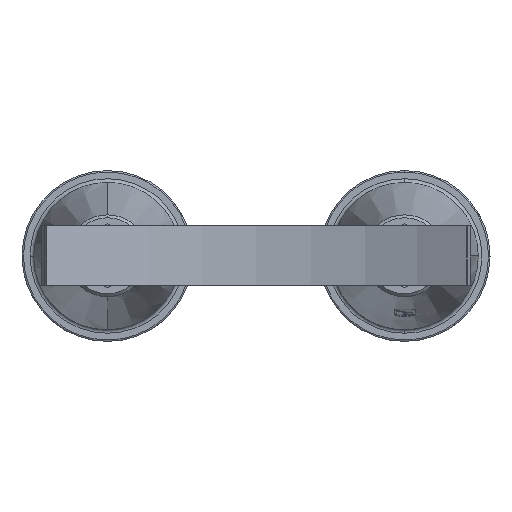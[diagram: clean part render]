
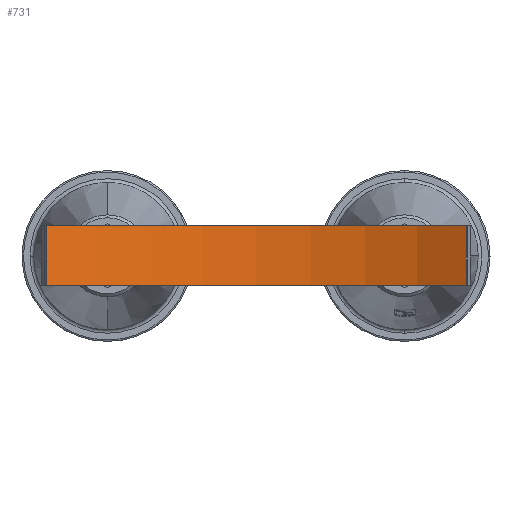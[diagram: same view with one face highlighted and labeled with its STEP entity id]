
A CAD part, top view. The second image highlights one B-rep face of the part: STEP entity #731.
In plain terms, the highlighted cylindrical face has radius 546 mm (diameter 1092 mm), a partial arc.
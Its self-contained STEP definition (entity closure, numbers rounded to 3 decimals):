
#731=ADVANCED_FACE('',(#1435),#1436,.F.);
#1435=FACE_OUTER_BOUND('',#2162,.T.);
#1436=CYLINDRICAL_SURFACE('',#2163,546.);
#2162=EDGE_LOOP('',(#3930,#3931,#3932,#3933));
#2163=AXIS2_PLACEMENT_3D('',#3934,#3935,#3936);
#3930=ORIENTED_EDGE('',*,*,#4773,.T.);
#3931=ORIENTED_EDGE('',*,*,#4763,.F.);
#3932=ORIENTED_EDGE('',*,*,#4774,.T.);
#3933=ORIENTED_EDGE('',*,*,#4770,.T.);
#3934=CARTESIAN_POINT('',(256.758,381.93,671.09));
#3935=DIRECTION('',(0.,-1.0,0.));
#3936=DIRECTION('',(1.0,0.,0.));
#4763=EDGE_CURVE('',#5789,#5784,#5791,.T.);
#4770=EDGE_CURVE('',#5801,#5799,#5802,.T.);
#4773=EDGE_CURVE('',#5799,#5784,#5805,.T.);
#4774=EDGE_CURVE('',#5789,#5801,#5806,.T.);
#5784=VERTEX_POINT('',#8894);
#5789=VERTEX_POINT('',#8901);
#5791=LINE('',#8904,#8905);
#5799=VERTEX_POINT('',#8914);
#5801=VERTEX_POINT('',#8917);
#5802=LINE('',#8918,#8919);
#5805=CIRCLE('',#8923,546.);
#5806=CIRCLE('',#8924,546.);
#8894=CARTESIAN_POINT('',(539.807,301.93,204.186));
#8901=CARTESIAN_POINT('',(539.807,381.93,204.186));
#8904=CARTESIAN_POINT('',(539.807,381.93,204.186));
#8905=VECTOR('',#9848,1.0);
#8914=CARTESIAN_POINT('',(-25.165,301.93,203.506));
#8917=CARTESIAN_POINT('',(-25.165,381.93,203.506));
#8918=CARTESIAN_POINT('',(-25.165,381.93,203.506));
#8919=VECTOR('',#9857,1.0);
#8923=AXIS2_PLACEMENT_3D('',#9859,#9860,#9861);
#8924=AXIS2_PLACEMENT_3D('',#9862,#9863,#9864);
#9848=DIRECTION('',(0.,-1.0,0.));
#9857=DIRECTION('',(0.,-1.0,0.));
#9859=CARTESIAN_POINT('',(256.758,301.93,671.09));
#9860=DIRECTION('',(0.,-1.0,0.));
#9861=DIRECTION('',(1.0,0.,0.));
#9862=CARTESIAN_POINT('',(256.758,381.93,671.09));
#9863=DIRECTION('',(0.,1.0,0.));
#9864=DIRECTION('',(1.0,0.,0.));
